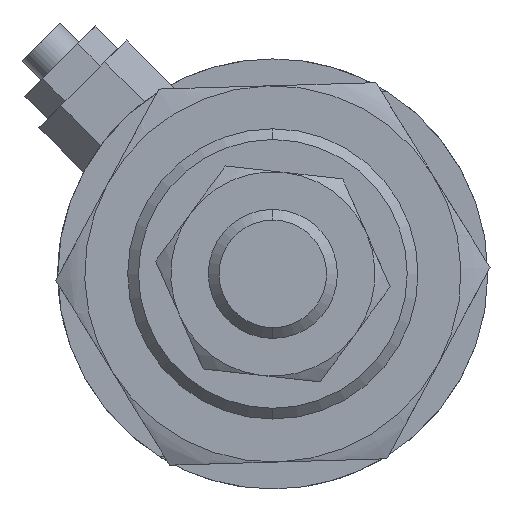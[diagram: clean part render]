
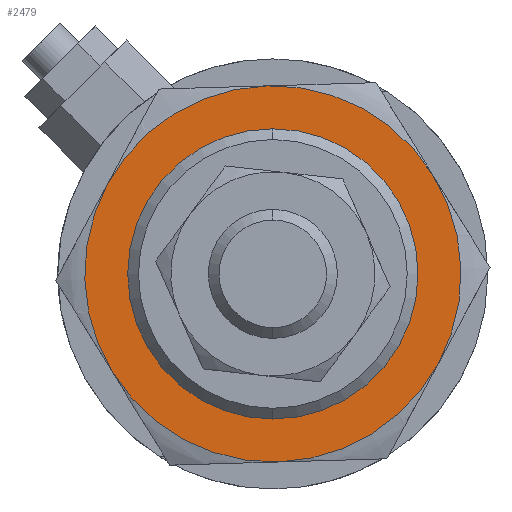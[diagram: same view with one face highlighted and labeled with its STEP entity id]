
A CAD part, left-side view. The second image highlights one B-rep face of the part: STEP entity #2479.
In plain terms, the highlighted planar face has unit normal (-1, 0, 0) as drawn and (0, 0, -1) by its records, which use the part's own axes.
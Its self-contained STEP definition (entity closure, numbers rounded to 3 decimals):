
#13 = VERTEX_POINT ( 'NONE', #387 ) ;
#236 = CARTESIAN_POINT ( 'NONE',  ( 0., 0., -5. ) ) ;
#387 = CARTESIAN_POINT ( 'NONE',  ( 8.75, 15.155, -5. ) ) ;
#394 = AXIS2_PLACEMENT_3D ( 'NONE', #635, #3610, #3297 ) ;
#395 = AXIS2_PLACEMENT_3D ( 'NONE', #1396, #2410, #569 ) ;
#474 = PLANE ( 'NONE',  #394 ) ;
#569 = DIRECTION ( 'NONE',  ( 1., 0., 0. ) ) ;
#614 = DIRECTION ( 'NONE',  ( 0., 0., 1. ) ) ;
#629 = VERTEX_POINT ( 'NONE', #3764 ) ;
#634 = AXIS2_PLACEMENT_3D ( 'NONE', #236, #4676, #3615 ) ;
#635 = CARTESIAN_POINT ( 'NONE',  ( 0., 0., -5. ) ) ;
#683 = EDGE_CURVE ( 'NONE', #13, #980, #2797, .T. ) ;
#731 = CARTESIAN_POINT ( 'NONE',  ( -17.5, 0., -5. ) ) ;
#822 = VERTEX_POINT ( 'NONE', #906 ) ;
#906 = CARTESIAN_POINT ( 'NONE',  ( 12.5, 0., -5. ) ) ;
#980 = VERTEX_POINT ( 'NONE', #1976 ) ;
#1049 = CARTESIAN_POINT ( 'NONE',  ( 0., 0., -5. ) ) ;
#1112 = CIRCLE ( 'NONE', #4147, 17.5 ) ;
#1146 = ORIENTED_EDGE ( 'NONE', *, *, #1305, .F. ) ;
#1246 = CARTESIAN_POINT ( 'NONE',  ( 0., 0., -5. ) ) ;
#1263 = AXIS2_PLACEMENT_3D ( 'NONE', #1645, #1717, #2802 ) ;
#1305 = EDGE_CURVE ( 'NONE', #4416, #3675, #2245, .T. ) ;
#1346 = ORIENTED_EDGE ( 'NONE', *, *, #2929, .T. ) ;
#1375 = FACE_BOUND ( 'NONE', #2601, .T. ) ;
#1396 = CARTESIAN_POINT ( 'NONE',  ( 0., 0., -5. ) ) ;
#1438 = ORIENTED_EDGE ( 'NONE', *, *, #3194, .F. ) ;
#1516 = ORIENTED_EDGE ( 'NONE', *, *, #3232, .F. ) ;
#1634 = EDGE_LOOP ( 'NONE', ( #1687, #1797, #1516, #1146, #1438, #2920 ) ) ;
#1645 = CARTESIAN_POINT ( 'NONE',  ( 0., 0., -5. ) ) ;
#1647 = DIRECTION ( 'NONE',  ( 1., 0., 0. ) ) ;
#1687 = ORIENTED_EDGE ( 'NONE', *, *, #2372, .F. ) ;
#1717 = DIRECTION ( 'NONE',  ( 0., 0., 1. ) ) ;
#1797 = ORIENTED_EDGE ( 'NONE', *, *, #2499, .F. ) ;
#1976 = CARTESIAN_POINT ( 'NONE',  ( -8.75, 15.155, -5. ) ) ;
#1991 = AXIS2_PLACEMENT_3D ( 'NONE', #1246, #3472, #1647 ) ;
#2012 = ORIENTED_EDGE ( 'NONE', *, *, #2057, .T. ) ;
#2057 = EDGE_CURVE ( 'NONE', #4388, #822, #4444, .T. ) ;
#2245 = CIRCLE ( 'NONE', #395, 17.5 ) ;
#2261 = AXIS2_PLACEMENT_3D ( 'NONE', #1049, #4014, #4240 ) ;
#2315 = CIRCLE ( 'NONE', #2261, 12.5 ) ;
#2348 = AXIS2_PLACEMENT_3D ( 'NONE', #4226, #3026, #2796 ) ;
#2372 = EDGE_CURVE ( 'NONE', #4486, #13, #4181, .T. ) ;
#2410 = DIRECTION ( 'NONE',  ( 0., 0., 1. ) ) ;
#2462 = FACE_OUTER_BOUND ( 'NONE', #1634, .T. ) ;
#2479 = ADVANCED_FACE ( 'NONE', ( #1375, #2462 ), #474, .F. ) ;
#2499 = EDGE_CURVE ( 'NONE', #629, #4486, #3668, .T. ) ;
#2601 = EDGE_LOOP ( 'NONE', ( #1346, #2012 ) ) ;
#2704 = CARTESIAN_POINT ( 'NONE',  ( -12.5, 0., -5. ) ) ;
#2719 = CARTESIAN_POINT ( 'NONE',  ( -8.75, -15.155, -5. ) ) ;
#2796 = DIRECTION ( 'NONE',  ( 1., 0., 0. ) ) ;
#2797 = CIRCLE ( 'NONE', #1991, 17.5 ) ;
#2802 = DIRECTION ( 'NONE',  ( 1., 0., 0. ) ) ;
#2920 = ORIENTED_EDGE ( 'NONE', *, *, #683, .F. ) ;
#2929 = EDGE_CURVE ( 'NONE', #822, #4388, #2315, .T. ) ;
#3018 = DIRECTION ( 'NONE',  ( 0., 0., 1. ) ) ;
#3026 = DIRECTION ( 'NONE',  ( 0., 0., 1. ) ) ;
#3086 = DIRECTION ( 'NONE',  ( 1., 0., 0. ) ) ;
#3194 = EDGE_CURVE ( 'NONE', #980, #4416, #1112, .T. ) ;
#3232 = EDGE_CURVE ( 'NONE', #3675, #629, #4310, .T. ) ;
#3285 = DIRECTION ( 'NONE',  ( 1., 0., 0. ) ) ;
#3297 = DIRECTION ( 'NONE',  ( 1., 0., 0. ) ) ;
#3344 = AXIS2_PLACEMENT_3D ( 'NONE', #3597, #614, #3285 ) ;
#3472 = DIRECTION ( 'NONE',  ( 0., 0., 1. ) ) ;
#3597 = CARTESIAN_POINT ( 'NONE',  ( 0., 0., -5. ) ) ;
#3610 = DIRECTION ( 'NONE',  ( 0., 0., 1. ) ) ;
#3615 = DIRECTION ( 'NONE',  ( 1., 0., 0. ) ) ;
#3668 = CIRCLE ( 'NONE', #634, 17.5 ) ;
#3675 = VERTEX_POINT ( 'NONE', #2719 ) ;
#3764 = CARTESIAN_POINT ( 'NONE',  ( 8.75, -15.155, -5. ) ) ;
#4014 = DIRECTION ( 'NONE',  ( 0., 0., 1. ) ) ;
#4147 = AXIS2_PLACEMENT_3D ( 'NONE', #4381, #3018, #3086 ) ;
#4181 = CIRCLE ( 'NONE', #3344, 17.5 ) ;
#4191 = CARTESIAN_POINT ( 'NONE',  ( 17.5, 0., -5. ) ) ;
#4226 = CARTESIAN_POINT ( 'NONE',  ( 0., 0., -5. ) ) ;
#4240 = DIRECTION ( 'NONE',  ( 1., 0., 0. ) ) ;
#4310 = CIRCLE ( 'NONE', #1263, 17.5 ) ;
#4381 = CARTESIAN_POINT ( 'NONE',  ( 0., 0., -5. ) ) ;
#4388 = VERTEX_POINT ( 'NONE', #2704 ) ;
#4416 = VERTEX_POINT ( 'NONE', #731 ) ;
#4444 = CIRCLE ( 'NONE', #2348, 12.5 ) ;
#4486 = VERTEX_POINT ( 'NONE', #4191 ) ;
#4676 = DIRECTION ( 'NONE',  ( 0., 0., 1. ) ) ;
